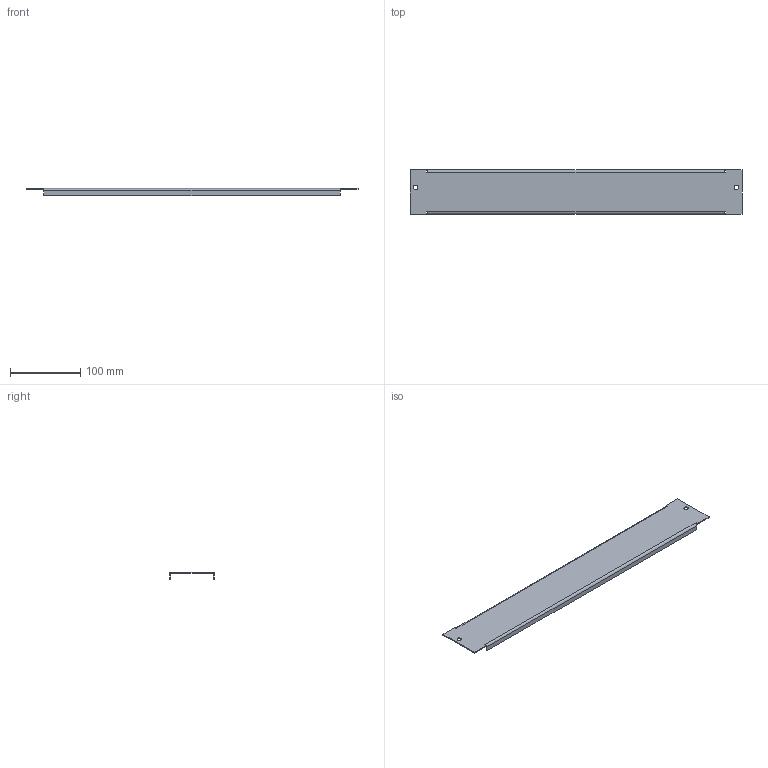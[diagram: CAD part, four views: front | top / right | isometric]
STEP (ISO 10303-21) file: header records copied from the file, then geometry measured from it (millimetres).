
FILE_DESCRIPTION(('STEP AP203'), '1');
FILE_NAME('Ïëàñòðîíû êîìïåíñàöèîííûå ãëóõèå 65õ600 ìì OptiBox M (2 øò) 419559 ÊÝÀÇ', '', ('UNSPECIFIED'), ('UNSPECIFIED'), 'C3D Converter', 'C3D Toolkit', '');
FILE_SCHEMA(('CONFIG_CONTROL_DESIGN'));
Length unit declared in the file: millimetre
Bounding box: 472 x 63 x 10 mm (x, y, z)
Volume: 50401.2 mm3; surface area: 73633.1 mm2
Topology: 1 solids, 1 shells, 36 faces, 86 edges, 52 vertices
Faces by surface type: plane 30, cylinder 6
Full cylindrical faces by diameter (mm): 6.3 x2
Entity records: 1052 total; most frequent: CARTESIAN_POINT 173, DIRECTION 170, ORIENTED_EDGE 168, EDGE_CURVE 84, LINE 72, VECTOR 72, VERTEX_POINT 52, AXIS2_PLACEMENT_3D 49
